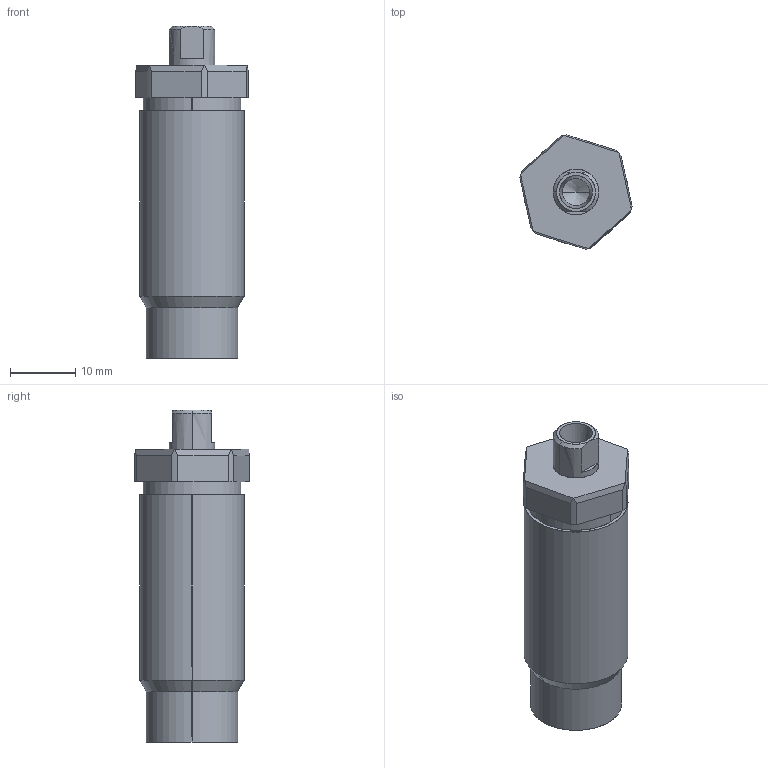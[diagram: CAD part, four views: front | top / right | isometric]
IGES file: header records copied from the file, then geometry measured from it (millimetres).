
Start section: SolidWorks IGES file using analytic representation for surfaces
Global section: file name: E:\ALL SSVT IGS MODEL\ALL THREADED BODY CYLINDER-S-M-L-IGS MODEL\TC06-M160-S-M-L-IGS AND STEPP FILE\TC06-M22X1.5-L.IGS; native system: SolidWorks 2019; preprocessor: SolidWorks 2019; author: SSVT; date: 210827.114235; units: millimetre
Bounding box: 17.25 x 17.57 x 51 mm (x, y, z)
Surface area: 4733.8 mm2 (no closed solid volume)
Topology: 0 solids, 0 shells, 53 faces, 597 edges, 595 vertices
Faces by surface type: revolution 29, bspline 24
